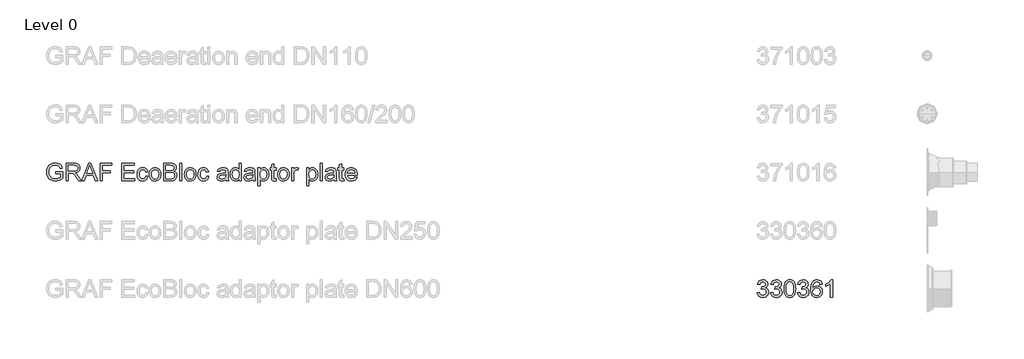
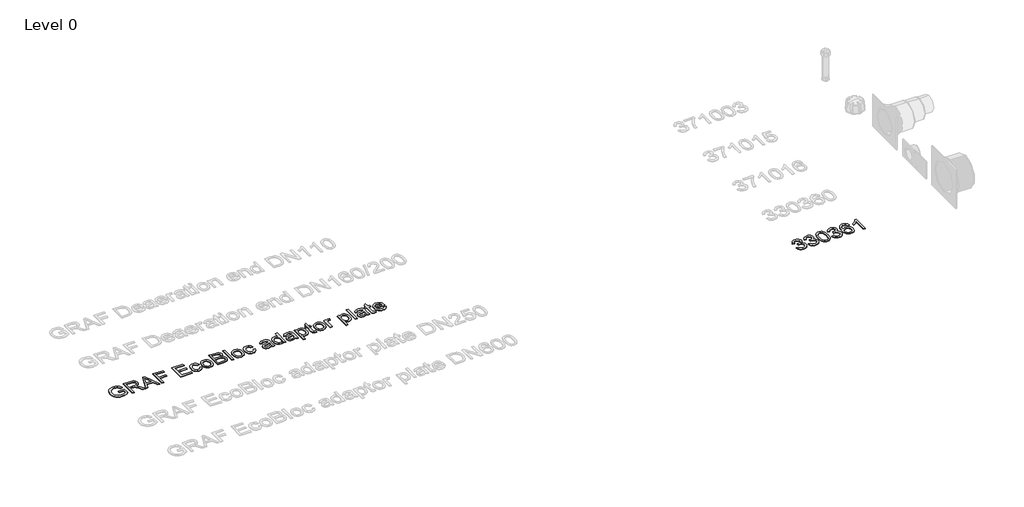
# One storey, part 3 of 25: 2 proxies.
"""IFC4 building model written with IfcOpenShell, lengths in millimetres."""

from ifc_helpers import new_model, si_unit, origin, origin_with_axes, place, context, project, spatial, polyline, outline, extrude, element, save

model = new_model("IFC4")

# Units and contexts
model_context = context("Model", 3, world=origin())
ifc_project = project(units=[si_unit("LENGTHUNIT", "METRE", prefix="MILLI")], contexts=[model_context])

# Site, building, storey
site = spatial("IfcSite", under=ifc_project)
building = spatial("IfcBuilding", under=site)
storey = spatial("IfcBuildingStorey", under=building, Name="Level 0", Elevation=0.0)

# Proxies
placement = place(None, origin())
element("IfcBuildingElementProxy", 1, Name="300mm Arial", ObjectType="300mm Arial", at=placement, inside=storey, context=model_context, shape_type="SweptSolid", body=[
    extrude(outline(polyline([(-15240.9940387, -8083.2545597), (-15240.9940387, -8045.5834434), (-15118.5629107, -8045.5834434), (-15118.5629107, -8158.2289103), (-15148.3153671, -8178.9222726), (-15179.0059225, -8193.7663111), (-15210.5610007, -8202.7058436), (-15242.9070251, -8205.6856877), (-15285.1674693, -8200.949207), (-15323.3628175, -8186.739765), (-15355.0926395, -8163.5540022), (-15377.9565055, -8131.8885595), (-15391.7796715, -8093.9047435), (-15396.3873935, -8051.7638609), (-15391.7980656, -8009.3194757), (-15378.0300819, -7969.8365406), (-15355.6536596, -7936.717964), (-15325.2390156, -7913.3666543), (-15288.1932987, -7899.5158972), (-15245.9236575, -7894.8989782), (-15214.8928112, -7897.5753197), (-15186.9889618, -7905.6043443), (-15163.4904994, -7918.4066377), (-15145.6758138, -7935.4027859), (-15132.4964413, -7957.4113262), (-15122.9039183, -7985.2507962), (-15157.6319786, -7995.0364573), (-15165.3850917, -7975.1800266), (-15174.8120678, -7960.1980323), (-15187.2832674, -7948.9040551), (-15204.169051, -7940.1116754), (-15224.3013932, -7934.4554897), (-15246.5122687, -7932.5700945), (-15272.5123287, -7934.6026425), (-15294.7415982, -7940.7002866), (-15313.1173039, -7950.0996716), (-15327.5566722, -7962.0374423), (-15346.9440533, -7991.0633317), (-15355.7732212, -8019.50061), (-15358.7162772, -8050.2187566), (-15355.175413, -8086.2436009), (-15344.5528204, -8115.8856927), (-15327.1703961, -8138.9334997), (-15303.3500369, -8155.1754898), (-15275.4737787, -8164.804801), (-15245.9236575, -8168.0145714), (-15219.831627, -8165.5957473), (-15194.3833899, -8158.3392749), (-15172.2828791, -8148.3420817), (-15156.234027, -8137.701095), (-15156.234027, -8083.2545597), (-15240.9940387, -8083.2545597)])), origin_with_axes(), (0.0, 0.0, 1.0), 10.0),
    extrude(outline(polyline([(-15057.3473467, -8200.9767982), (-15057.3473467, -7899.6078677), (-14927.4850024, -7899.6078677), (-14892.5821982, -7901.6404158), (-14867.1891434, -7907.7380598), (-14848.6294968, -7918.9952489), (-14834.2269167, -7936.5064318), (-14824.9838815, -7958.2206666), (-14821.9028698, -7982.087011), (-14827.0072325, -8011.7750881), (-14842.3203206, -8036.3863935), (-14853.9200997, -8046.4157764), (-14868.3019865, -8054.4310054), (-14905.4120827, -8064.4190016), (-14884.0013506, -8080.532233), (-14853.467145, -8119.3069952), (-14803.2144645, -8200.9767982), (-14846.9924219, -8200.9767982), (-14886.2086426, -8138.5104354), (-14914.5355562, -8097.1604991), (-14934.4379722, -8077.6259652), (-14952.3538253, -8070.4522663), (-14974.2060158, -8069.1278911), (-15019.6762304, -8069.1278911), (-15019.6762304, -8200.9767982), (-15057.3473467, -8200.9767982)]), holes=[polyline([(-15019.6762304, -8031.4567748), (-14935.3576771, -8031.4567748), (-14911.1418448, -8030.1232026), (-14892.3522719, -8026.1224859), (-14878.2072092, -8019.1879103), (-14867.9249074, -8009.0527613), (-14861.6617165, -7996.7930938), (-14859.5739861, -7983.4849626), (-14863.5563087, -7965.109257), (-14875.5032765, -7950.3020067), (-14896.058683, -7940.5347397), (-14925.8663217, -7937.278984), (-15019.6762304, -7937.278984), (-15019.6762304, -8031.4567748)])]), origin_with_axes(), (0.0, 0.0, 1.0), 10.0),
    extrude(outline(polyline([(-14791.0743586, -8200.9767982), (-14670.7769462, -7899.6078677), (-14638.6976362, -7899.6078677), (-14518.4002238, -8200.9767982), (-14558.2050557, -8200.9767982), (-14592.7123868, -8106.7990074), (-14716.835772, -8106.7990074), (-14751.2695268, -8200.9767982), (-14791.0743586, -8200.9767982)]), holes=[polyline([(-14703.003409, -8069.1278911), (-14606.4711735, -8069.1278911), (-14633.6208647, -7995.0364573), (-14654.7372912, -7937.278984), (-14673.499273, -7988.5617342), (-14703.003409, -8069.1278911)])]), origin_with_axes(), (0.0, 0.0, 1.0), 10.0),
    extrude(outline(polyline([(-14478.1539335, -8200.9767982), (-14478.1539335, -7899.6078677), (-14275.6716834, -7899.6078677), (-14275.6716834, -7937.278984), (-14440.4828172, -7937.278984), (-14440.4828172, -8026.7478853), (-14299.2161311, -8026.7478853), (-14299.2161311, -8064.4190016), (-14440.4828172, -8064.4190016), (-14440.4828172, -8200.9767982), (-14478.1539335, -8200.9767982)])), origin_with_axes(), (0.0, 0.0, 1.0), 10.0),
    extrude(outline(polyline([(-14106.15166, -8200.9767982), (-14106.15166, -7899.6078677), (-13889.5427413, -7899.6078677), (-13889.5427413, -7937.278984), (-14068.4805437, -7937.278984), (-14068.4805437, -8026.7478853), (-13898.9605203, -8026.7478853), (-13898.9605203, -8064.4190016), (-14068.4805437, -8064.4190016), (-14068.4805437, -8163.3056819), (-13884.8338517, -8163.3056819), (-13884.8338517, -8200.9767982), (-14106.15166, -8200.9767982)])), origin_with_axes(), (0.0, 0.0, 1.0), 10.0),
    extrude(outline(polyline([(-13691.7693806, -8120.925676), (-13654.0982643, -8125.6345656), (-13664.6012953, -8159.1394183), (-13684.3381643, -8184.4588966), (-13711.4510674, -8200.3789899), (-13744.0822004, -8205.6856877), (-13765.2101232, -8203.8347814), (-13784.1537467, -8198.2820626), (-13800.9130708, -8189.0275311), (-13815.4880956, -8176.0711871), (-13827.2856114, -8159.6567523), (-13835.7124083, -8140.0279486), (-13840.7684865, -8117.184776), (-13842.4538459, -8091.1272344), (-13839.5751693, -8057.6039876), (-13830.9391394, -8028.550507), (-13816.4078006, -8005.0888328), (-13795.8431971, -7988.341005), (-13771.2410887, -7978.2978265), (-13744.5972352, -7974.9501003), (-13712.7662455, -7979.5486253), (-13687.3180085, -7993.3442001), (-13669.0618645, -8015.6010608), (-13658.8071539, -8045.5834434), (-13696.4782702, -8050.292333), (-13703.3116782, -8033.8572048), (-13713.952665, -8022.0757839), (-13727.8126191, -8014.9848585), (-13744.3029296, -8012.6212166), (-13768.6475206, -8017.2749239), (-13787.9705224, -8031.2360456), (-13800.5796778, -8055.2587399), (-13804.7827296, -8090.0971648), (-13800.6716483, -8125.4046393), (-13788.3384044, -8149.5101071), (-13769.3648905, -8163.3884553), (-13745.3329991, -8168.0145714), (-13725.8260564, -8165.1266977), (-13709.8323866, -8156.4630768), (-13698.1981185, -8141.8029793), (-13691.7693806, -8120.925676)])), origin_with_axes(), (0.0, 0.0, 1.0), 10.0),
    extrude(outline(polyline([(-13630.5538167, -8090.317894), (-13628.5166701, -8061.6552881), (-13622.4052305, -8036.9566106), (-13612.2194977, -8016.2218617), (-13597.9594719, -7999.4510412), (-13583.602877, -7988.7318796), (-13567.7563601, -7981.0753356), (-13550.4199211, -7976.4814091), (-13531.5935599, -7974.9501003), (-13510.8105265, -7976.8148022), (-13492.0186543, -7982.4089078), (-13475.2179434, -7991.7324171), (-13460.4083939, -8004.7853302), (-13448.3211711, -8021.1261885), (-13439.6874405, -8040.3135338), (-13434.5072022, -8062.3473661), (-13432.780456, -8087.2276853), (-13435.8338766, -8125.2850777), (-13444.9941383, -8154.2557848), (-13459.9945266, -8175.9516255), (-13480.5683272, -8192.1844185), (-13505.0048887, -8202.3103704), (-13531.5935599, -8205.6856877), (-13552.6800961, -8203.8278836), (-13571.6467122, -8198.2544714), (-13588.4934083, -8188.965451), (-13603.2201844, -8175.9608225), (-13615.1786485, -8159.461315), (-13623.7204086, -8139.6876578), (-13628.8454646, -8116.6398508), (-13630.5538167, -8090.317894)]), holes=[polyline([(-13592.8827003, -8090.2443176), (-13588.5232987, -8124.3377815), (-13575.4450938, -8148.6271903), (-13555.763407, -8163.1677261), (-13531.5935599, -8168.0145714), (-13507.5340775, -8163.140135), (-13487.8891789, -8148.5168257), (-13474.810974, -8123.9055202), (-13470.4515723, -8089.0670952), (-13474.8385651, -8055.9669127), (-13487.9995435, -8032.0085978), (-13507.6720332, -8017.4680619), (-13531.5935599, -8012.6212166), (-13555.763407, -8017.4496678), (-13575.4450938, -8031.9350214), (-13588.5232987, -8056.1692478), (-13592.8827003, -8090.2443176)])]), origin_with_axes(), (0.0, 0.0, 1.0), 10.0),
    extrude(outline(polyline([(-13385.6915607, -8200.9767982), (-13385.6915607, -7899.6078677), (-13270.691649, -7899.6078677), (-13239.0629944, -7901.8243568), (-13214.3689155, -7908.4738238), (-13195.4413869, -7919.7218158), (-13181.1123831, -7935.7338797), (-13172.0900772, -7954.5694378), (-13169.0826419, -7974.2879128), (-13171.6118306, -7992.4336922), (-13179.1993968, -8009.4942197), (-13191.9005227, -8024.4210316), (-13209.7703906, -8036.1656643), (-13188.4240378, -8047.3124888), (-13172.6510973, -8064.2718488), (-13162.9114214, -8085.9217042), (-13159.6648628, -8111.140015), (-13161.8813518, -8132.1552739), (-13168.5308189, -8151.6438226), (-13178.4544357, -8168.2169065), (-13190.493374, -8180.485771), (-13205.236245, -8189.3701212), (-13223.2716598, -8195.789662), (-13271.5745658, -8200.9767982), (-13385.6915607, -8200.9767982)]), holes=[polyline([(-13348.0204444, -8163.3056819), (-13270.7652254, -8163.3056819), (-13242.8061937, -8161.8341539), (-13219.1513814, -8153.6303854), (-13203.4796084, -8136.8917546), (-13198.8718865, -8125.0643485), (-13197.3359791, -8111.507897), (-13199.1386009, -8095.7625476), (-13204.5464662, -8082.2244901), (-13213.9918365, -8071.6386857), (-13227.9069729, -8064.7500954), (-13247.6162508, -8060.9701079), (-13274.4440453, -8059.710112), (-13348.0204444, -8059.710112), (-13348.0204444, -8163.3056819)]), polyline([(-13348.0204444, -8022.0389957), (-13279.2265113, -8022.0389957), (-13239.0537974, -8018.8016342), (-13224.9915081, -8013.2190249), (-13214.8839503, -8004.8589065), (-13208.7863062, -7993.8500378), (-13206.7537582, -7980.3211775), (-13208.6483505, -7967.1877902), (-13214.3321273, -7955.7466602), (-13223.5475713, -7946.8163248), (-13236.037165, -7941.2153214), (-13284.4504356, -7937.278984), (-13348.0204444, -7937.278984), (-13348.0204444, -8022.0389957)])]), origin_with_axes(), (0.0, 0.0, 1.0), 10.0),
    extrude(outline(polyline([(-13112.5759674, -8200.9767982), (-13112.5759674, -7899.6078677), (-13074.9048511, -7899.6078677), (-13074.9048511, -8200.9767982), (-13112.5759674, -8200.9767982)])), origin_with_axes(), (0.0, 0.0, 1.0), 10.0),
    extrude(outline(polyline([(-13027.8159558, -8090.317894), (-13025.7788092, -8061.6552881), (-13019.6673696, -8036.9566106), (-13009.4816368, -8016.2218617), (-12995.221611, -7999.4510412), (-12980.8650161, -7988.7318796), (-12965.0184992, -7981.0753356), (-12947.6820602, -7976.4814091), (-12928.855699, -7974.9501003), (-12908.0726656, -7976.8148022), (-12889.2807934, -7982.4089078), (-12872.4800826, -7991.7324171), (-12857.670533, -8004.7853302), (-12845.5833102, -8021.1261885), (-12836.9495796, -8040.3135338), (-12831.7693413, -8062.3473661), (-12830.0425951, -8087.2276853), (-12833.0960157, -8125.2850777), (-12842.2562774, -8154.2557848), (-12857.2566657, -8175.9516255), (-12877.8304663, -8192.1844185), (-12902.2670278, -8202.3103704), (-12928.855699, -8205.6856877), (-12949.9422352, -8203.8278836), (-12968.9088513, -8198.2544714), (-12985.7555474, -8188.965451), (-13000.4823235, -8175.9608225), (-13012.4407876, -8159.461315), (-13020.9825477, -8139.6876578), (-13026.1076037, -8116.6398508), (-13027.8159558, -8090.317894)]), holes=[polyline([(-12990.1448394, -8090.2443176), (-12985.7854378, -8124.3377815), (-12972.7072329, -8148.6271903), (-12953.0255461, -8163.1677261), (-12928.855699, -8168.0145714), (-12904.7962166, -8163.140135), (-12885.151318, -8148.5168257), (-12872.0731131, -8123.9055202), (-12867.7137115, -8089.0670952), (-12872.1007042, -8055.9669127), (-12885.2616826, -8032.0085978), (-12904.9341723, -8017.4680619), (-12928.855699, -8012.6212166), (-12953.0255461, -8017.4496678), (-12972.7072329, -8031.9350214), (-12985.7854378, -8056.1692478), (-12990.1448394, -8090.2443176)])]), origin_with_axes(), (0.0, 0.0, 1.0), 10.0),
    extrude(outline(polyline([(-12646.3959032, -8120.925676), (-12608.7247868, -8125.6345656), (-12619.2278178, -8159.1394183), (-12638.9646869, -8184.4588966), (-12666.0775899, -8200.3789899), (-12698.7087229, -8205.6856877), (-12719.8366457, -8203.8347814), (-12738.7802692, -8198.2820626), (-12755.5395933, -8189.0275311), (-12770.1146181, -8176.0711871), (-12781.9121339, -8159.6567523), (-12790.3389308, -8140.0279486), (-12795.395009, -8117.184776), (-12797.0803684, -8091.1272344), (-12794.2016918, -8057.6039876), (-12785.5656619, -8028.550507), (-12771.0343231, -8005.0888328), (-12750.4697196, -7988.341005), (-12725.8676112, -7978.2978265), (-12699.2237577, -7974.9501003), (-12667.392768, -7979.5486253), (-12641.944531, -7993.3442001), (-12623.688387, -8015.6010608), (-12613.4336764, -8045.5834434), (-12651.1047927, -8050.292333), (-12657.9382008, -8033.8572048), (-12668.5791875, -8022.0757839), (-12682.4391416, -8014.9848585), (-12698.9294521, -8012.6212166), (-12723.2740431, -8017.2749239), (-12742.5970449, -8031.2360456), (-12755.2062003, -8055.2587399), (-12759.4092521, -8090.0971648), (-12755.2981708, -8125.4046393), (-12742.9649269, -8149.5101071), (-12723.991413, -8163.3884553), (-12699.9595217, -8168.0145714), (-12680.4525789, -8165.1266977), (-12664.4589091, -8156.4630768), (-12652.824641, -8141.8029793), (-12646.3959032, -8120.925676)])), origin_with_axes(), (0.0, 0.0, 1.0), 10.0),
    extrude(outline(polyline([(-12316.7736355, -8172.7234609), (-12334.7722621, -8188.1561106), (-12353.3043176, -8198.2544714), (-12372.7928663, -8203.8278836), (-12393.6609725, -8205.6856877), (-12425.1424742, -8201.2159215), (-12448.3650251, -8187.8066228), (-12462.6848318, -8167.4443543), (-12467.4581007, -8142.1156789), (-12465.6554789, -8126.4990883), (-12460.2476136, -8112.3172373), (-12451.9058894, -8100.1771315), (-12441.3016908, -8090.685776), (-12414.9245518, -8078.324941), (-12382.330207, -8072.6595583), (-12343.8129621, -8066.6998699), (-12316.9943647, -8059.710112), (-12316.7736355, -8051.3224025), (-12319.3672035, -8034.5101954), (-12327.1479077, -8023.5105237), (-12344.5487261, -8015.3435434), (-12368.7921496, -8012.6212166), (-12391.2329513, -8014.4330355), (-12406.9047243, -8019.868492), (-12417.5916963, -8029.9208675), (-12425.0780949, -8045.5834434), (-12462.7492112, -8040.8745539), (-12456.2101087, -8020.2731621), (-12446.4520388, -8004.0863544), (-12432.5644935, -7991.7071252), (-12413.6369648, -7982.5284694), (-12390.4879903, -7976.8446926), (-12363.9361073, -7974.9501003), (-12338.4694761, -7976.6239634), (-12318.2819517, -7981.6455527), (-12303.0608341, -7989.1963306), (-12292.4934238, -7998.4577598), (-12285.4852718, -8009.9080869), (-12280.9419291, -8024.0255585), (-12279.1025192, -8056.9877853), (-12279.1025192, -8103.8559515), (-12277.1895328, -8169.3021584), (-12269.6847401, -8200.9767982), (-12307.3558564, -8200.9767982), (-12316.7736355, -8172.7234609)]), holes=[polyline([(-12316.7736355, -8097.3812283), (-12377.5477411, -8108.932723), (-12409.9581449, -8115.0395641), (-12424.6366365, -8124.972378), (-12429.7869844, -8139.4669286), (-12426.9818842, -8150.6689353), (-12418.5665835, -8159.8475911), (-12404.7250235, -8165.9728263), (-12385.641145, -8168.0145714), (-12365.4076352, -8165.7612942), (-12347.5285703, -8159.0014625), (-12333.0340197, -8149.0410575), (-12322.954053, -8137.1860602), (-12318.4842868, -8124.972378), (-12316.9943647, -8108.0498062), (-12316.7736355, -8097.3812283)])]), origin_with_axes(), (0.0, 0.0, 1.0), 10.0),
    extrude(outline(polyline([(-12090.7469376, -8200.9767982), (-12090.7469376, -8165.4393974), (-12102.0179223, -8183.0471494), (-12115.6709428, -8195.6241151), (-12131.7059993, -8203.1702946), (-12150.1230917, -8205.6856877), (-12174.4768797, -8202.043656), (-12196.7705286, -8191.1175607), (-12215.642875, -8173.6707571), (-12229.7327554, -8150.4666002), (-12238.506741, -8122.4431893), (-12241.4314029, -8090.5386232), (-12238.7366672, -8059.0295303), (-12230.6524604, -8030.573858), (-12217.1879794, -8006.790287), (-12198.3524212, -7989.2974982), (-12175.5713287, -7978.5369498), (-12150.2702445, -7974.9501003), (-12131.8393565, -7977.5160773), (-12115.5421841, -7985.214008), (-12101.7282152, -7997.013823), (-12090.7469376, -8011.8854527), (-12090.7469376, -7899.6078677), (-12053.0758213, -7899.6078677), (-12053.0758213, -8200.9767982), (-12090.7469376, -8200.9767982)]), holes=[polyline([(-12203.7602866, -8090.3914704), (-12199.5112495, -8124.4665402), (-12186.7641384, -8148.7007667), (-12168.2412799, -8163.1861202), (-12146.6650009, -8168.0145714), (-12125.0979189, -8163.4068494), (-12107.04411, -8149.5836835), (-12094.8212307, -8126.2875561), (-12090.7469376, -8093.26095), (-12094.8948071, -8057.1533322), (-12107.3384156, -8032.1189624), (-12125.852077, -8017.4956531), (-12148.2101053, -8012.6212166), (-12170.0071135, -8017.302515), (-12187.8677844, -8031.3464102), (-12199.787161, -8055.470272), (-12203.7602866, -8090.3914704)])]), origin_with_axes(), (0.0, 0.0, 1.0), 10.0),
    extrude(outline(polyline([(-11855.3024607, -8172.7234609), (-11873.3010873, -8188.1561106), (-11891.8331428, -8198.2544714), (-11911.3216915, -8203.8278836), (-11932.1897977, -8205.6856877), (-11963.6712995, -8201.2159215), (-11986.8938504, -8187.8066228), (-12001.2136571, -8167.4443543), (-12005.9869259, -8142.1156789), (-12004.1843042, -8126.4990883), (-11998.7764388, -8112.3172373), (-11990.4347146, -8100.1771315), (-11979.8305161, -8090.685776), (-11953.453377, -8078.324941), (-11920.8590323, -8072.6595583), (-11882.3417874, -8066.6998699), (-11855.5231899, -8059.710112), (-11855.3024607, -8051.3224025), (-11857.8960288, -8034.5101954), (-11865.676733, -8023.5105237), (-11883.0775514, -8015.3435434), (-11907.3209748, -8012.6212166), (-11929.7617765, -8014.4330355), (-11945.4335495, -8019.868492), (-11956.1205215, -8029.9208675), (-11963.6069201, -8045.5834434), (-12001.2780364, -8040.8745539), (-11994.7389339, -8020.2731621), (-11984.980864, -8004.0863544), (-11971.0933187, -7991.7071252), (-11952.1657901, -7982.5284694), (-11929.0168155, -7976.8446926), (-11902.4649325, -7974.9501003), (-11876.9983014, -7976.6239634), (-11856.8107769, -7981.6455527), (-11841.5896594, -7989.1963306), (-11831.022249, -7998.4577598), (-11824.014097, -8009.9080869), (-11819.4707544, -8024.0255585), (-11817.6313444, -8056.9877853), (-11817.6313444, -8103.8559515), (-11815.718358, -8169.3021584), (-11808.2135653, -8200.9767982), (-11845.8846816, -8200.9767982), (-11855.3024607, -8172.7234609)]), holes=[polyline([(-11855.3024607, -8097.3812283), (-11916.0765663, -8108.932723), (-11948.4869701, -8115.0395641), (-11963.1654617, -8124.972378), (-11968.3158096, -8139.4669286), (-11965.5107094, -8150.6689353), (-11957.0954088, -8159.8475911), (-11943.2538487, -8165.9728263), (-11924.1699702, -8168.0145714), (-11903.9364605, -8165.7612942), (-11886.0573955, -8159.0014625), (-11871.5628449, -8149.0410575), (-11861.4828782, -8137.1860602), (-11857.013112, -8124.972378), (-11855.5231899, -8108.0498062), (-11855.3024607, -8097.3812283)])]), origin_with_axes(), (0.0, 0.0, 1.0), 10.0),
    extrude(outline(polyline([(-11765.8335595, -8285.7368099), (-11765.8335595, -7979.6589899), (-11728.1624432, -7979.6589899), (-11728.1624432, -8016.5943422), (-11715.8751846, -7998.3749864), (-11702.1163979, -7985.3611608), (-11686.0767429, -7977.5528655), (-11666.9468792, -7974.9501003), (-11641.471051, -7978.5921321), (-11619.1957962, -7989.5182274), (-11601.0592139, -8007.0661985), (-11587.999403, -8030.573858), (-11580.1083342, -8058.3305545), (-11577.477978, -8088.6256369), (-11580.4486251, -8120.8429026), (-11589.3605664, -8149.6572599), (-11603.9286934, -8173.6063777), (-11623.8678976, -8191.2279253), (-11647.0904485, -8202.0712471), (-11671.5086159, -8205.6856877), (-11688.8266609, -8203.2668636), (-11704.2869017, -8196.0103912), (-11717.5214565, -8185.0567048), (-11728.1624432, -8171.5462386), (-11728.1624432, -8285.7368099), (-11765.8335595, -8285.7368099)]), holes=[polyline([(-11728.1624432, -8092.0837276), (-11724.0881501, -8125.8552948), (-11711.8652708, -8149.4733189), (-11693.829856, -8163.3792583), (-11672.3179563, -8168.0145714), (-11650.4565688, -8163.2137114), (-11631.9613015, -8148.8111313), (-11619.3521461, -8124.3285845), (-11615.1490943, -8089.2878244), (-11619.2509785, -8055.7001983), (-11631.5566313, -8031.7510804), (-11649.5644549, -8017.4036826), (-11670.7728519, -8012.6212166), (-11692.0640224, -8017.7071852), (-11710.7616248, -8032.965091), (-11723.8122386, -8057.9166873), (-11728.1624432, -8092.0837276)])]), origin_with_axes(), (0.0, 0.0, 1.0), 10.0),
    extrude(outline(polyline([(-11455.04685, -8169.5596758), (-11450.3379604, -8202.0804442), (-11478.5177213, -8205.6856877), (-11496.5991213, -8204.1221892), (-11510.0819965, -8199.4316938), (-11519.6101401, -8192.2028126), (-11525.8273458, -8183.0241568), (-11529.2486484, -8167.2604133), (-11530.3890826, -8140.276269), (-11530.3890826, -8017.3301062), (-11558.6424198, -8017.3301062), (-11558.6424198, -7979.6589899), (-11530.3890826, -7979.6589899), (-11530.3890826, -7925.8746422), (-11492.7179663, -7903.7281461), (-11492.7179663, -7979.6589899), (-11455.04685, -7979.6589899), (-11455.04685, -8017.3301062), (-11492.7179663, -8017.3301062), (-11492.7179663, -8139.172623), (-11490.7314035, -8158.5967923), (-11484.2934686, -8165.4761856), (-11471.454387, -8168.0145714), (-11455.04685, -8169.5596758)])), origin_with_axes(), (0.0, 0.0, 1.0), 10.0),
    extrude(outline(polyline([(-11426.7935127, -8090.317894), (-11424.7563662, -8061.6552881), (-11418.6449265, -8036.9566106), (-11408.4591938, -8016.2218617), (-11394.199168, -7999.4510412), (-11379.8425731, -7988.7318796), (-11363.9960562, -7981.0753356), (-11346.6596171, -7976.4814091), (-11327.833256, -7974.9501003), (-11307.0502226, -7976.8148022), (-11288.2583504, -7982.4089078), (-11271.4576395, -7991.7324171), (-11256.64809, -8004.7853302), (-11244.5608672, -8021.1261885), (-11235.9271366, -8040.3135338), (-11230.7468983, -8062.3473661), (-11229.0201521, -8087.2276853), (-11232.0735727, -8125.2850777), (-11241.2338344, -8154.2557848), (-11256.2342227, -8175.9516255), (-11276.8080233, -8192.1844185), (-11301.2445848, -8202.3103704), (-11327.833256, -8205.6856877), (-11348.9197922, -8203.8278836), (-11367.8864083, -8198.2544714), (-11384.7331044, -8188.965451), (-11399.4598805, -8175.9608225), (-11411.4183446, -8159.461315), (-11419.9601047, -8139.6876578), (-11425.0851607, -8116.6398508), (-11426.7935127, -8090.317894)]), holes=[polyline([(-11389.1223964, -8090.2443176), (-11384.7629948, -8124.3377815), (-11371.6847899, -8148.6271903), (-11352.0031031, -8163.1677261), (-11327.833256, -8168.0145714), (-11303.7737736, -8163.140135), (-11284.128875, -8148.5168257), (-11271.0506701, -8123.9055202), (-11266.6912684, -8089.0670952), (-11271.0782612, -8055.9669127), (-11284.2392396, -8032.0085978), (-11303.9117293, -8017.4680619), (-11327.833256, -8012.6212166), (-11352.0031031, -8017.4496678), (-11371.6847899, -8031.9350214), (-11384.7629948, -8056.1692478), (-11389.1223964, -8090.2443176)])]), origin_with_axes(), (0.0, 0.0, 1.0), 10.0),
    extrude(outline(polyline([(-11186.6401463, -8200.9767982), (-11186.6401463, -7979.6589899), (-11153.6779195, -7979.6589899), (-11153.6779195, -8012.4004875), (-11141.5010255, -7993.4177765), (-11130.2806246, -7982.2341638), (-11119.0234356, -7976.7711162), (-11106.7361769, -7974.9501003), (-11087.9741952, -7977.8563681), (-11068.9179078, -7986.5751714), (-11081.4994721, -8020.3467385), (-11094.7432239, -8014.5525971), (-11107.9869757, -8012.6212166), (-11119.2349677, -8014.4790207), (-11129.2873432, -8020.052433), (-11137.4083383, -8028.918389), (-11142.8621889, -8040.6538247), (-11147.4423197, -8061.6966748), (-11148.96903, -8084.6525113), (-11148.96903, -8200.9767982), (-11186.6401463, -8200.9767982)])), origin_with_axes(), (0.0, 0.0, 1.0), 10.0),
    extrude(outline(polyline([(-10927.6512217, -8285.7368099), (-10927.6512217, -7979.6589899), (-10889.9801054, -7979.6589899), (-10889.9801054, -8016.5943422), (-10877.6928467, -7998.3749864), (-10863.9340601, -7985.3611608), (-10847.8944051, -7977.5528655), (-10828.7645414, -7974.9501003), (-10803.2887132, -7978.5921321), (-10781.0134584, -7989.5182274), (-10762.876876, -8007.0661985), (-10749.8170652, -8030.573858), (-10741.9259964, -8058.3305545), (-10739.2956402, -8088.6256369), (-10742.2662873, -8120.8429026), (-10751.1782286, -8149.6572599), (-10765.7463556, -8173.6063777), (-10785.6855597, -8191.2279253), (-10808.9081107, -8202.0712471), (-10833.3262781, -8205.6856877), (-10850.644323, -8203.2668636), (-10866.1045639, -8196.0103912), (-10879.3391187, -8185.0567048), (-10889.9801054, -8171.5462386), (-10889.9801054, -8285.7368099), (-10927.6512217, -8285.7368099)]), holes=[polyline([(-10889.9801054, -8092.0837276), (-10885.9058123, -8125.8552948), (-10873.682933, -8149.4733189), (-10855.6475182, -8163.3792583), (-10834.1356185, -8168.0145714), (-10812.2742309, -8163.2137114), (-10793.7789636, -8148.8111313), (-10781.1698083, -8124.3285845), (-10776.9667565, -8089.2878244), (-10781.0686407, -8055.7001983), (-10793.3742934, -8031.7510804), (-10811.3821171, -8017.4036826), (-10832.5905141, -8012.6212166), (-10853.8816846, -8017.7071852), (-10872.579287, -8032.965091), (-10885.6299008, -8057.9166873), (-10889.9801054, -8092.0837276)])]), origin_with_axes(), (0.0, 0.0, 1.0), 10.0),
    extrude(outline(polyline([(-10696.9156343, -8200.9767982), (-10696.9156343, -7899.6078677), (-10659.244518, -7899.6078677), (-10659.244518, -8200.9767982), (-10696.9156343, -8200.9767982)])), origin_with_axes(), (0.0, 0.0, 1.0), 10.0),
    extrude(outline(polyline([(-10461.4711574, -8172.7234609), (-10479.469784, -8188.1561106), (-10498.0018395, -8198.2544714), (-10517.4903882, -8203.8278836), (-10538.3584944, -8205.6856877), (-10569.8399961, -8201.2159215), (-10593.0625471, -8187.8066228), (-10607.3823537, -8167.4443543), (-10612.1556226, -8142.1156789), (-10610.3530008, -8126.4990883), (-10604.9451355, -8112.3172373), (-10596.6034113, -8100.1771315), (-10585.9992128, -8090.685776), (-10559.6220737, -8078.324941), (-10527.0277289, -8072.6595583), (-10488.510484, -8066.6998699), (-10461.6918866, -8059.710112), (-10461.4711574, -8051.3224025), (-10464.0647255, -8034.5101954), (-10471.8454297, -8023.5105237), (-10489.246248, -8015.3435434), (-10513.4896715, -8012.6212166), (-10535.9304732, -8014.4330355), (-10551.6022462, -8019.868492), (-10562.2892182, -8029.9208675), (-10569.7756168, -8045.5834434), (-10607.4467331, -8040.8745539), (-10600.9076306, -8020.2731621), (-10591.1495607, -8004.0863544), (-10577.2620154, -7991.7071252), (-10558.3344867, -7982.5284694), (-10535.1855122, -7976.8446926), (-10508.6336292, -7974.9501003), (-10483.1669981, -7976.6239634), (-10462.9794736, -7981.6455527), (-10447.758356, -7989.1963306), (-10437.1909457, -7998.4577598), (-10430.1827937, -8009.9080869), (-10425.6394511, -8024.0255585), (-10423.8000411, -8056.9877853), (-10423.8000411, -8103.8559515), (-10421.8870547, -8169.3021584), (-10414.382262, -8200.9767982), (-10452.0533783, -8200.9767982), (-10461.4711574, -8172.7234609)]), holes=[polyline([(-10461.4711574, -8097.3812283), (-10522.245263, -8108.932723), (-10554.6556668, -8115.0395641), (-10569.3341584, -8124.972378), (-10574.4845063, -8139.4669286), (-10571.6794061, -8150.6689353), (-10563.2641055, -8159.8475911), (-10549.4225454, -8165.9728263), (-10530.3386669, -8168.0145714), (-10510.1051572, -8165.7612942), (-10492.2260922, -8159.0014625), (-10477.7315416, -8149.0410575), (-10467.6515749, -8137.1860602), (-10463.1818087, -8124.972378), (-10461.6918866, -8108.0498062), (-10461.4711574, -8097.3812283)])]), origin_with_axes(), (0.0, 0.0, 1.0), 10.0),
    extrude(outline(polyline([(-10291.951134, -8169.5596758), (-10287.2422445, -8202.0804442), (-10315.4220053, -8205.6856877), (-10333.5034054, -8204.1221892), (-10346.9862805, -8199.4316938), (-10356.5144242, -8192.2028126), (-10362.7316299, -8183.0241568), (-10366.1529324, -8167.2604133), (-10367.2933666, -8140.276269), (-10367.2933666, -8017.3301062), (-10395.5467039, -8017.3301062), (-10395.5467039, -7979.6589899), (-10367.2933666, -7979.6589899), (-10367.2933666, -7925.8746422), (-10329.6222503, -7903.7281461), (-10329.6222503, -7979.6589899), (-10291.951134, -7979.6589899), (-10291.951134, -8017.3301062), (-10329.6222503, -8017.3301062), (-10329.6222503, -8139.172623), (-10327.6356876, -8158.5967923), (-10321.1977526, -8165.4761856), (-10308.358671, -8168.0145714), (-10291.951134, -8169.5596758)])), origin_with_axes(), (0.0, 0.0, 1.0), 10.0),
    extrude(outline(polyline([(-10099.3281213, -8135.0523446), (-10062.392769, -8139.7612342), (-10075.7009002, -8167.5915071), (-10096.9368884, -8188.3952339), (-10125.622487, -8201.3630743), (-10161.2794493, -8205.6856877), (-10184.6537516, -8203.8209859), (-10205.4804711, -8198.2268803), (-10223.7596077, -8188.9033709), (-10239.4911615, -8175.8504579), (-10252.1417036, -8159.4314246), (-10261.1778051, -8140.0095545), (-10266.599466, -8117.5848477), (-10268.4066863, -8092.157304), (-10266.5810719, -8065.8675369), (-10261.1042287, -8042.6955698), (-10251.9761567, -8022.6414025), (-10239.1968559, -8005.7050351), (-10223.5066888, -7992.2497512), (-10205.646018, -7982.638834), (-10185.6148433, -7976.8722838), (-10163.4131649, -7974.9501003), (-10141.9265571, -7976.8676852), (-10122.49549, -7982.6204399), (-10105.1199635, -7992.2083644), (-10089.7999777, -8005.6314587), (-10077.2942891, -8022.5310379), (-10068.3616544, -8042.548417), (-10063.0020736, -8065.6835959), (-10061.2155466, -8091.9365748), (-10061.4362758, -8102.0901179), (-10230.73557, -8102.0901179), (-10224.2148617, -8130.2882728), (-10209.0673205, -8151.0184232), (-10187.2059329, -8163.7655344), (-10160.5436853, -8168.0145714), (-10140.4941166, -8166.0464027), (-10123.608333, -8160.1418967), (-10109.8863346, -8149.9331713), (-10099.3281213, -8135.0523446)]), holes=[polyline([(-10230.73557, -8064.4190016), (-10098.886663, -8064.4190016), (-10103.9818286, -8044.5165856), (-10113.9698248, -8030.2795524), (-10135.9323799, -8017.0358006), (-10163.5603177, -8012.6212166), (-10188.9533724, -8016.1436868), (-10209.9502373, -8026.7110971), (-10224.5459555, -8043.1830134), (-10230.73557, -8064.4190016)])]), origin_with_axes(), (0.0, 0.0, 1.0), 10.0),
])
element("IfcBuildingElementProxy", 2, Name="300mm Arial", ObjectType="300mm Arial", at=placement, inside=storey, context=model_context, shape_type="SweptSolid", body=[
    extrude(outline(polyline([(-3192.0538732, -10120.925676), (-3154.3827568, -10116.2167865), (-3145.9490621, -10139.8899929), (-3133.5974241, -10155.8744656), (-3116.7208376, -10164.979545), (-3094.7122972, -10168.0145714), (-3068.8869812, -10163.8391108), (-3048.947777, -10151.3127288), (-3036.2006659, -10132.6243235), (-3031.9516289, -10109.9627926), (-3036.1638777, -10088.4508929), (-3048.8006242, -10071.0040893), (-3067.930488, -10059.4433976), (-3091.6220885, -10055.5898337), (-3118.0360157, -10059.710112), (-3113.842161, -10022.0389957), (-3107.8088963, -10022.4804541), (-3085.2393359, -10019.7765215), (-3065.0610084, -10011.6647235), (-3050.8239752, -9997.942725), (-3046.0782975, -9978.4081911), (-3049.5179941, -9962.1386099), (-3059.8370841, -9948.9408433), (-3075.5824335, -9940.1944488), (-3095.3009084, -9937.278984), (-3115.0561716, -9940.22204), (-3131.2061912, -9949.0512079), (-3142.9968091, -9963.7664877), (-3149.6738673, -9984.3678794), (-3187.3449836, -9979.6589899), (-3176.2533415, -9945.8322404), (-3156.5164724, -9920.5771415), (-3129.513934, -9904.8501862), (-3096.6252836, -9899.6078677), (-3072.9428802, -9902.1922387), (-3051.1918572, -9909.9453518), (-3032.8529397, -9922.1774281), (-3019.4068528, -9938.198689), (-3011.1570991, -9956.6571681), (-3008.4071812, -9976.2008991), (-3011.0191433, -9994.4110579), (-3018.8550298, -10010.9289595), (-3031.8044761, -10025.0004458), (-3049.7571174, -10035.8713587), (-3026.1758815, -10045.3995024), (-3008.7014868, -10061.6230984), (-2997.8857561, -10083.6592299), (-2994.2805125, -10110.6249802), (-2996.0831343, -10129.7364498), (-3001.4909997, -10147.3396033), (-3010.5041085, -10163.4344406), (-3023.122461, -10178.0209617), (-3038.4953298, -10190.1242793), (-3055.771988, -10198.7695062), (-3074.9524356, -10203.9566423), (-3096.0366724, -10205.6856877), (-3115.0929598, -10204.2095612), (-3132.4569899, -10199.7811817), (-3148.1287629, -10192.4005492), (-3162.1082787, -10182.0676636), (-3173.8299188, -10169.3895304), (-3182.7280646, -10154.9731547), (-3188.802716, -10138.8185366), (-3192.0538732, -10120.925676)])), origin_with_axes(), (0.0, 0.0, 1.0), 10.0),
    extrude(outline(polyline([(-2961.3182858, -10120.925676), (-2923.6471695, -10116.2167865), (-2915.2134747, -10139.8899929), (-2902.8618367, -10155.8744656), (-2885.9852502, -10164.979545), (-2863.9767099, -10168.0145714), (-2838.1513938, -10163.8391108), (-2818.2121897, -10151.3127288), (-2805.4650785, -10132.6243235), (-2801.2160415, -10109.9627926), (-2805.4282903, -10088.4508929), (-2818.0650369, -10071.0040893), (-2837.1949006, -10059.4433976), (-2860.8865011, -10055.5898337), (-2887.3004284, -10059.710112), (-2883.1065736, -10022.0389957), (-2877.0733089, -10022.4804541), (-2854.5037485, -10019.7765215), (-2834.325421, -10011.6647235), (-2820.0883878, -9997.942725), (-2815.3427101, -9978.4081911), (-2818.7824067, -9962.1386099), (-2829.1014967, -9948.9408433), (-2844.8468461, -9940.1944488), (-2864.565321, -9937.278984), (-2884.3205842, -9940.22204), (-2900.4706038, -9949.0512079), (-2912.2612217, -9963.7664877), (-2918.9382799, -9984.3678794), (-2956.6093962, -9979.6589899), (-2945.5177541, -9945.8322404), (-2925.780885, -9920.5771415), (-2898.7783466, -9904.8501862), (-2865.8896962, -9899.6078677), (-2842.2072928, -9902.1922387), (-2820.4562698, -9909.9453518), (-2802.1173524, -9922.1774281), (-2788.6712654, -9938.198689), (-2780.4215117, -9956.6571681), (-2777.6715938, -9976.2008991), (-2780.283556, -9994.4110579), (-2788.1194425, -10010.9289595), (-2801.0688887, -10025.0004458), (-2819.02153, -10035.8713587), (-2795.4402942, -10045.3995024), (-2777.9658994, -10061.6230984), (-2767.1501687, -10083.6592299), (-2763.5449252, -10110.6249802), (-2765.3475469, -10129.7364498), (-2770.7554123, -10147.3396033), (-2779.7685212, -10163.4344406), (-2792.3868736, -10178.0209617), (-2807.7597425, -10190.1242793), (-2825.0364007, -10198.7695062), (-2844.2168482, -10203.9566423), (-2865.301085, -10205.6856877), (-2884.3573724, -10204.2095612), (-2901.7214026, -10199.7811817), (-2917.3931756, -10192.4005492), (-2931.3726914, -10182.0676636), (-2943.0943314, -10169.3895304), (-2951.9924772, -10154.9731547), (-2958.0671286, -10138.8185366), (-2961.3182858, -10120.925676)])), origin_with_axes(), (0.0, 0.0, 1.0), 10.0),
    extrude(outline(polyline([(-2730.5826984, -10052.7203541), (-2727.8143864, -10004.4818275), (-2719.5094504, -9966.0105679), (-2705.7506637, -9936.717964), (-2686.6208, -9916.0154047), (-2661.9819034, -9903.709752), (-2631.6960181, -9899.6078677), (-2608.4826642, -9902.0358889), (-2587.6973315, -9909.3199524), (-2570.3149072, -9921.1749497), (-2557.3102787, -9937.3157722), (-2547.4878294, -9957.6044643), (-2539.6519429, -9981.9030701), (-2534.5199891, -10012.7591724), (-2532.8093378, -10052.7203541), (-2535.5500587, -10100.6829692), (-2543.7722213, -10139.0622584), (-2557.4482344, -10168.3824534), (-2576.550507, -10189.1677861), (-2601.244586, -10201.5562123), (-2631.6960181, -10205.6856877), (-2652.4445626, -10203.892263), (-2670.8386624, -10198.5119888), (-2686.8783174, -10189.5448652), (-2700.5635276, -10176.9908921), (-2713.6969148, -10154.2971715), (-2723.0779057, -10126.0208417), (-2728.7065002, -10092.1619025), (-2730.5826984, -10052.7203541)]), holes=[polyline([(-2692.9115821, -10052.6467777), (-2688.4969982, -10111.9033701), (-2682.9787682, -10132.1713688), (-2675.2532463, -10146.1991691), (-2655.5347714, -10162.5607208), (-2631.6960181, -10168.0145714), (-2607.8572648, -10162.5423267), (-2588.1387899, -10146.1255927), (-2580.413268, -10132.0747997), (-2574.895038, -10111.8113996), (-2570.4804541, -10052.6467777), (-2574.7478852, -9994.7237576), (-2580.0821742, -9974.5224375), (-2587.5501787, -9960.1612441), (-2607.2318654, -9942.9995491), (-2632.1374765, -9937.278984), (-2655.7187124, -9942.3189674), (-2674.6646351, -9957.4389174), (-2682.6476744, -9973.0739022), (-2688.3498454, -9994.1535405), (-2692.9115821, -10052.6467777)])]), origin_with_axes(), (0.0, 0.0, 1.0), 10.0),
    extrude(outline(polyline([(-2499.847111, -10120.925676), (-2462.1759947, -10116.2167865), (-2453.7423, -10139.8899929), (-2441.390662, -10155.8744656), (-2424.5140755, -10164.979545), (-2402.5055351, -10168.0145714), (-2376.680219, -10163.8391108), (-2356.7410149, -10151.3127288), (-2343.9939038, -10132.6243235), (-2339.7448667, -10109.9627926), (-2343.9571156, -10088.4508929), (-2356.5938621, -10071.0040893), (-2375.7237259, -10059.4433976), (-2399.4153263, -10055.5898337), (-2425.8292536, -10059.710112), (-2421.6353989, -10022.0389957), (-2415.6021341, -10022.4804541), (-2393.0325737, -10019.7765215), (-2372.8542463, -10011.6647235), (-2358.6172131, -9997.942725), (-2353.8715353, -9978.4081911), (-2357.311232, -9962.1386099), (-2367.630322, -9948.9408433), (-2383.3756714, -9940.1944488), (-2403.0941463, -9937.278984), (-2422.8494094, -9940.22204), (-2438.999429, -9949.0512079), (-2450.790047, -9963.7664877), (-2457.4671052, -9984.3678794), (-2495.1382215, -9979.6589899), (-2484.0465793, -9945.8322404), (-2464.3097103, -9920.5771415), (-2437.3071719, -9904.8501862), (-2404.4185215, -9899.6078677), (-2380.736118, -9902.1922387), (-2358.9850951, -9909.9453518), (-2340.6461776, -9922.1774281), (-2327.2000907, -9938.198689), (-2318.950337, -9956.6571681), (-2316.200419, -9976.2008991), (-2318.8123812, -9994.4110579), (-2326.6482677, -10010.9289595), (-2339.5977139, -10025.0004458), (-2357.5503553, -10035.8713587), (-2333.9691194, -10045.3995024), (-2316.4947246, -10061.6230984), (-2305.678994, -10083.6592299), (-2302.0737504, -10110.6249802), (-2303.8763722, -10129.7364498), (-2309.2842375, -10147.3396033), (-2318.2973464, -10163.4344406), (-2330.9156988, -10178.0209617), (-2346.2885677, -10190.1242793), (-2363.5652259, -10198.7695062), (-2382.7456734, -10203.9566423), (-2403.8299103, -10205.6856877), (-2422.8861976, -10204.2095612), (-2440.2502278, -10199.7811817), (-2455.9220008, -10192.4005492), (-2469.9015166, -10182.0676636), (-2481.6231567, -10169.3895304), (-2490.5213025, -10154.9731547), (-2496.5959539, -10138.8185366), (-2499.847111, -10120.925676)])), origin_with_axes(), (0.0, 0.0, 1.0), 10.0),
    extrude(outline(polyline([(-2076.0470526, -9979.6589899), (-2113.7181689, -9984.3678794), (-2119.7882218, -9965.6978682), (-2127.9919903, -9952.950757), (-2145.080109, -9941.1969273), (-2165.736683, -9937.278984), (-2183.247866, -9939.5598524), (-2199.7289794, -9946.4024575), (-2213.8832391, -9960.8142347), (-2225.4439308, -9980.6522713), (-2233.2522262, -10008.7124704), (-2236.1492969, -10047.7907354), (-2221.0385439, -10030.1599908), (-2202.9295527, -10017.7347764), (-2182.8339987, -10010.3679394), (-2161.7635575, -10007.9123271), (-2143.6637633, -10009.5907887), (-2126.9619207, -10014.6261735), (-2111.6580297, -10023.0184815), (-2097.7520903, -10034.7677128), (-2086.1959971, -10049.1748914), (-2077.9416449, -10065.5410417), (-2072.9890335, -10083.8661635), (-2071.338163, -10104.150257), (-2074.4467659, -10131.1252043), (-2083.7725745, -10156.131983), (-2098.5430366, -10177.34038), (-2117.9856, -10192.9201825), (-2141.217348, -10202.4943114), (-2167.3553638, -10205.6856877), (-2189.8122603, -10203.5703662), (-2210.0940546, -10197.2244018), (-2228.2007465, -10186.6477945), (-2244.1323362, -10171.8405442), (-2257.1208699, -10152.1772515), (-2266.3983939, -10127.0325171), (-2271.9649084, -10096.406341), (-2273.8204132, -10060.2987232), (-2271.760274, -10019.8179082), (-2265.5798565, -9985.2691903), (-2255.2791606, -9956.6525696), (-2240.8581864, -9933.9680461), (-2225.2278002, -9918.9354681), (-2207.1050134, -9908.1979123), (-2186.4898261, -9901.7553789), (-2163.3822382, -9899.6078677), (-2130.328041, -9904.9237626), (-2103.8589314, -9920.8714471), (-2085.3176789, -9946.2001224), (-2076.0470526, -9979.6589899)]), holes=[polyline([(-2236.1492969, -10103.5616459), (-2233.9695961, -10120.2542914), (-2227.4304936, -10136.1927788), (-2217.2769505, -10149.8963831), (-2204.2539279, -10159.8843793), (-2188.5361697, -10165.9820234), (-2170.2984198, -10168.0145714), (-2145.4387939, -10163.8023226), (-2125.8950629, -10151.165576), (-2113.2307252, -10131.2999483), (-2109.0092794, -10105.4010558), (-2113.175543, -10080.54143), (-2125.6743337, -10061.5863102), (-2145.5491585, -10049.5841601), (-2171.8435241, -10045.5834434), (-2196.6663618, -10049.5841601), (-2217.4241033, -10061.5863102), (-2231.4679985, -10080.0815775), (-2236.1492969, -10103.5616459)])]), origin_with_axes(), (0.0, 0.0, 1.0), 10.0),
    extrude(outline(polyline([(-1897.1092501, -10200.9767982), (-1934.7803664, -10200.9767982), (-1934.7803664, -9966.1209325), (-1970.46492, -9991.5415783), (-2010.1225991, -10010.5610775), (-2010.1225991, -9974.9501003), (-1980.5356896, -9958.8552631), (-1954.9035116, -9939.7070052), (-1934.697593, -9919.3447368), (-1921.3894618, -9899.6078677), (-1897.1092501, -9899.6078677), (-1897.1092501, -10200.9767982)])), origin_with_axes(), (0.0, 0.0, 1.0), 10.0),
])

save(model, "model.ifc")
